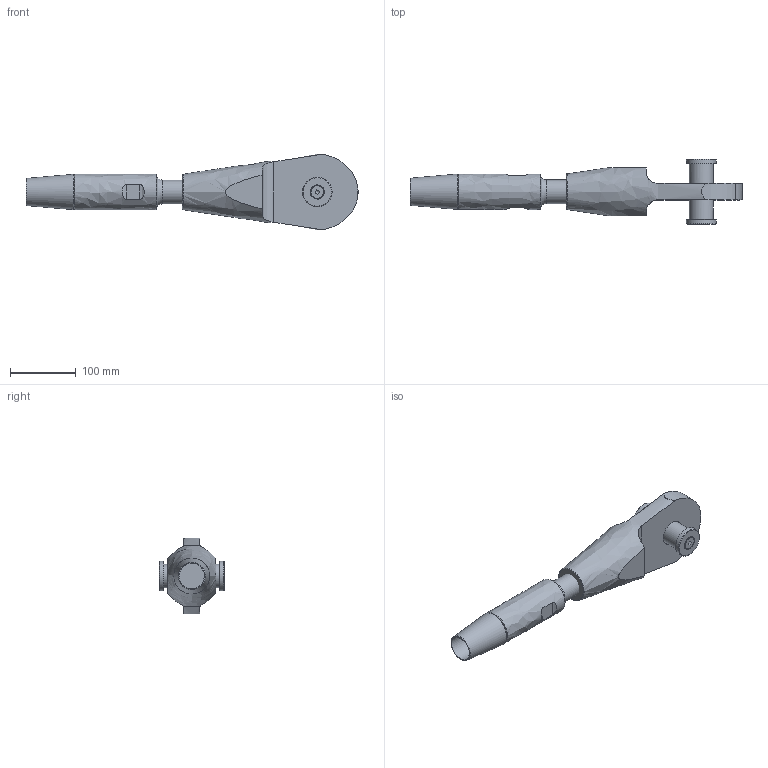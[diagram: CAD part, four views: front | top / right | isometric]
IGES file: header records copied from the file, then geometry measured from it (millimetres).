
Global section: file name: 520-036-OES-ADA; native system: Autodesk Inventor 2020; preprocessor: unknown; author: Administrator; date: 20201007.153817; units: millimetre
Bounding box: 504.93 x 99.75 x 115.27 mm (x, y, z)
Volume: 1408528.2 mm3; surface area: 148587.5 mm2
Topology: 6 solids, 6 shells, 62 faces, 151 edges, 105 vertices
Faces by surface type: bspline 62
